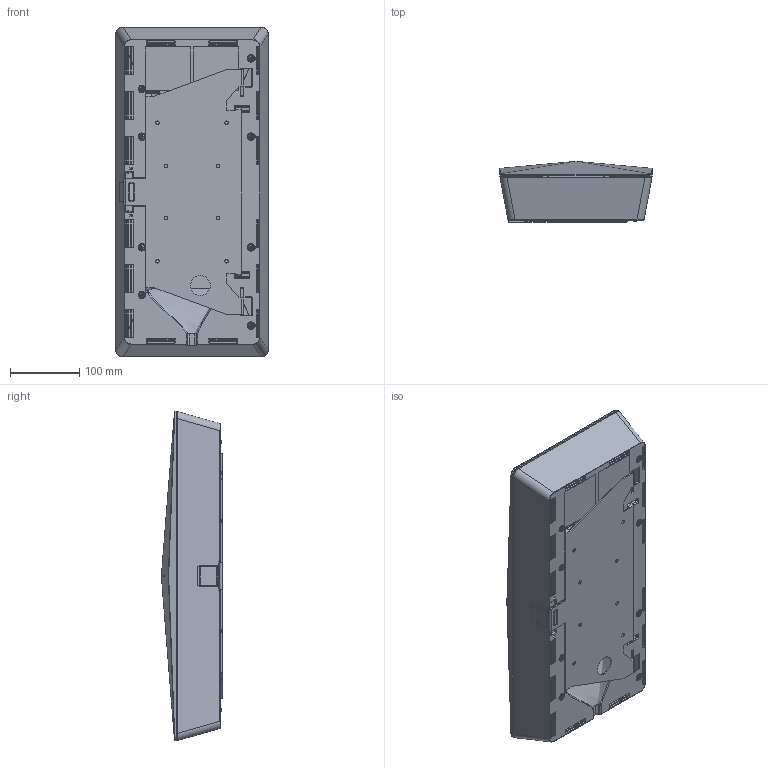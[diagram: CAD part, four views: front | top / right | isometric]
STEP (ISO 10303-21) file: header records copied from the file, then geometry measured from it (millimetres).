
FILE_DESCRIPTION (( 'STEP AP203' ), '1' );
FILE_NAME ('xSpan Customer Model.STEP', '2016-10-12T15:05:09', ( '' ), ( '' ), 'SwSTEP 2.0', 'SolidWorks 2015', '' );
FILE_SCHEMA (( 'CONFIG_CONTROL_DESIGN' ));
Products named in the file (1): xSpan Customer Model
Bounding box: 220 x 88.48 x 476.25 mm (x, y, z)
Surface area: 432405.8 mm2 (no closed solid volume)
Topology: 0 solids, 47 shells, 1141 faces, 4919 edges, 3693 vertices
Faces by surface type: plane 425, cylinder 422, bspline 198, cone 48, torus 32, sphere 16
Entity records: 55022 total; most frequent: CARTESIAN_POINT 20354, ORIENTED_EDGE 6911, DIRECTION 6215, EDGE_CURVE 4919, VERTEX_POINT 3693, LINE 2547, VECTOR 2547, AXIS2_PLACEMENT_3D 1834
